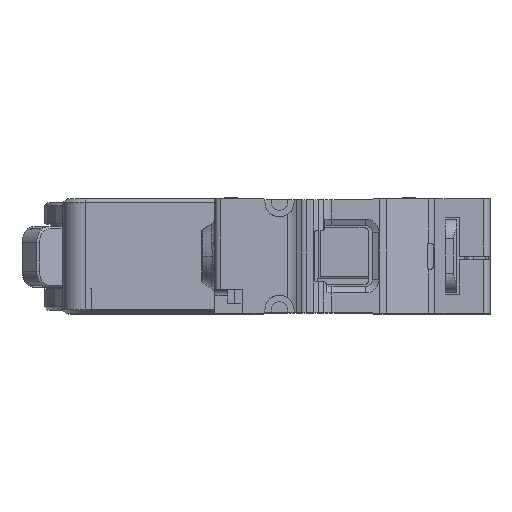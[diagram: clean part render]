
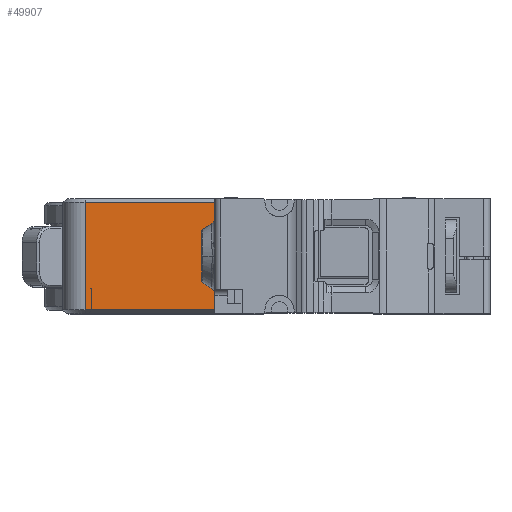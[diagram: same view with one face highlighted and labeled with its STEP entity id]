
A CAD part, top view. The second image highlights one B-rep face of the part: STEP entity #49907.
In plain terms, the highlighted planar face has unit normal (0, 0, 1).
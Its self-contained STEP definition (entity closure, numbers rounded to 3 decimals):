
#3908=DIRECTION('',(0.,1.,0.));
#3909=VECTOR('',#3908,16.6);
#3910=CARTESIAN_POINT('',(9.,0.55,30.));
#3911=LINE('',#3910,#3909);
#3945=DIRECTION('',(0.,1.,0.));
#3946=VECTOR('',#3945,3.3);
#3947=CARTESIAN_POINT('',(-10.,0.55,30.));
#3948=LINE('',#3947,#3946);
#3949=DIRECTION('',(-1.,0.,0.));
#3950=VECTOR('',#3949,0.05);
#3951=CARTESIAN_POINT('',(-10.,3.85,30.));
#3952=LINE('',#3951,#3950);
#3953=DIRECTION('',(-1.,0.,0.));
#3954=VECTOR('',#3953,19.);
#3955=CARTESIAN_POINT('',(9.,0.55,30.));
#3956=LINE('',#3955,#3954);
#18335=DIRECTION('',(-1.,0.,0.));
#18336=VECTOR('',#18335,20.);
#18337=CARTESIAN_POINT('',(9.,17.15,30.));
#18338=LINE('',#18337,#18336);
#18356=DIRECTION('',(0.,-1.,0.));
#18357=VECTOR('',#18356,16.6);
#18358=CARTESIAN_POINT('',(-11.,17.15,
30.));
#18359=LINE('',#18358,#18357);
#18377=DIRECTION('',(1.,0.,0.));
#18378=VECTOR('',#18377,0.95);
#18379=CARTESIAN_POINT('',(-11.,0.55,
30.));
#18380=LINE('',#18379,#18378);
#18381=DIRECTION('',(0.,1.,0.));
#18382=VECTOR('',#18381,3.3);
#18383=CARTESIAN_POINT('',(-10.05,0.55,
30.));
#18384=LINE('',#18383,#18382);
#36263=CARTESIAN_POINT('',(9.,0.55,30.));
#36264=VERTEX_POINT('',#36263);
#36480=CARTESIAN_POINT('',(-10.,0.55,30.));
#36481=VERTEX_POINT('',#36480);
#41865=CARTESIAN_POINT('',(-11.,17.15,30.));
#41866=VERTEX_POINT('',#41865);
#41868=CARTESIAN_POINT('',(-11.,0.55,30.));
#41870=VERTEX_POINT('',#41868);
#41875=CARTESIAN_POINT('',(-10.05,0.55,
30.));
#41877=VERTEX_POINT('',#41875);
#41880=CARTESIAN_POINT('',(-10.05,3.85,30.));
#41881=VERTEX_POINT('',#41880);
#41930=CARTESIAN_POINT('',(9.,17.15,30.));
#41931=VERTEX_POINT('',#41930);
#44354=CARTESIAN_POINT('',(-10.,3.85,30.));
#44355=VERTEX_POINT('',#44354);
#49885=CARTESIAN_POINT('',(-14.,0.,30.));
#49886=DIRECTION('',(0.,0.,1.));
#49887=DIRECTION('',(1.,0.,0.));
#49888=AXIS2_PLACEMENT_3D('',#49885,#49886,#49887);
#49889=PLANE('',#49888);
#49891=ORIENTED_EDGE('',*,*,#49890,.T.);
#49893=ORIENTED_EDGE('',*,*,#49892,.T.);
#49895=ORIENTED_EDGE('',*,*,#49894,.F.);
#49897=ORIENTED_EDGE('',*,*,#49896,.F.);
#49899=ORIENTED_EDGE('',*,*,#49898,.F.);
#49901=ORIENTED_EDGE('',*,*,#49900,.F.);
#49902=ORIENTED_EDGE('',*,*,#49851,.F.);
#49904=ORIENTED_EDGE('',*,*,#49903,.T.);
#49905=EDGE_LOOP('',(#49891,#49893,#49895,#49897,#49899,#49901,#49902,#49904));
#49906=FACE_OUTER_BOUND('',#49905,.F.);
#49907=ADVANCED_FACE('',(#49906),#49889,.T.);
#49851=EDGE_CURVE('',#36264,#41931,#3911,.T.);
#49890=EDGE_CURVE('',#36481,#44355,#3948,.T.);
#49892=EDGE_CURVE('',#44355,#41881,#3952,.T.);
#49894=EDGE_CURVE('',#41877,#41881,#18384,.T.);
#49896=EDGE_CURVE('',#41870,#41877,#18380,.T.);
#49898=EDGE_CURVE('',#41866,#41870,#18359,.T.);
#49900=EDGE_CURVE('',#41931,#41866,#18338,.T.);
#49903=EDGE_CURVE('',#36264,#36481,#3956,.T.);
